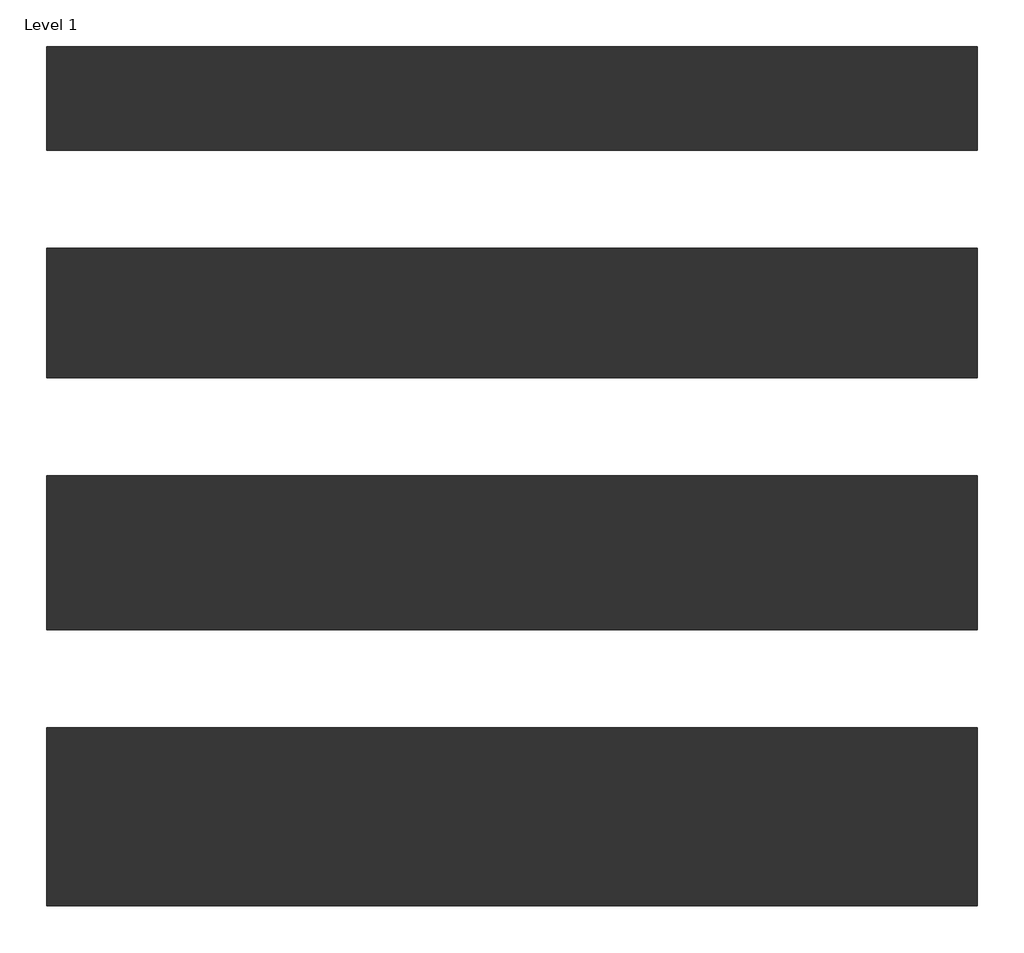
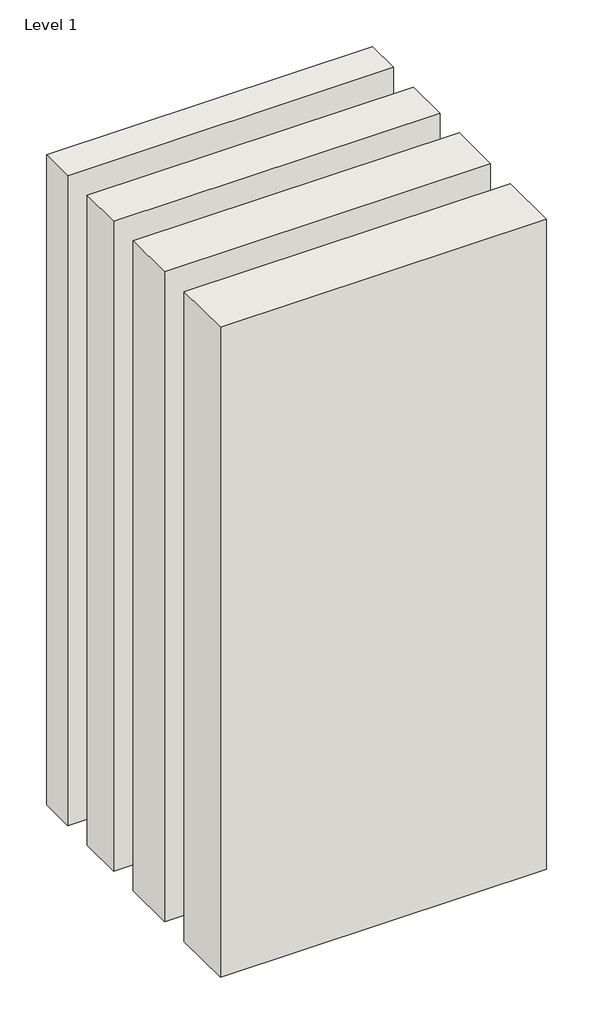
# One storey: 4 walls.
"""IFC4 building model written with IfcOpenShell, lengths in millimetres."""

from ifc_helpers import new_model, si_unit, origin, origin_with_axes, place, context, project, spatial, polyline, outline, extrude, element, save

model = new_model("IFC4")

# Units and contexts
model_context = context("Model", 3, world=origin())
ifc_project = project(units=[si_unit("LENGTHUNIT", "METRE", prefix="MILLI")], contexts=[model_context])

# Site, building, storey
site = spatial("IfcSite", under=ifc_project)
building = spatial("IfcBuilding", under=site)
storey = spatial("IfcBuildingStorey", under=building, Name="Level 1", Elevation=0.0)

# Walls
placement = place(None, origin())
element("IfcWall", 1, ObjectType="Interior-Steel Frame-Double Stud-CSR1360-212mm", at=placement, inside=storey, context=model_context, shape_type="SweptSolid", body=[
    extrude(outline(polyline([(-581.3441035, -599.7263136), (1318.6558965, -599.7263136), (1318.6558965, -811.7263136), (-581.3441035, -811.7263136), (-581.3441035, -599.7263136)])), origin_with_axes(), (0.0, 0.0, 1.0), 4000.0),
])
element("IfcWall", 2, ObjectType="Interior-Steel Frame-Double Stud-CSR1360-264mm", at=placement, inside=storey, context=model_context, shape_type="SweptSolid", body=[
    extrude(outline(polyline([(-581.3441035, -1011.7263136), (1318.6558965, -1011.7263136), (1318.6558965, -1275.7263136), (-581.3441035, -1275.7263136), (-581.3441035, -1011.7263136)])), origin_with_axes(), (0.0, 0.0, 1.0), 4000.0),
])
element("IfcWall", 3, ObjectType="Interior-Steel Frame-Double Stud-CSR1360-314mm", at=placement, inside=storey, context=model_context, shape_type="SweptSolid", body=[
    extrude(outline(polyline([(-581.3441035, -1475.7263136), (1318.6558965, -1475.7263136), (1318.6558965, -1789.7263136), (-581.3441035, -1789.7263136), (-581.3441035, -1475.7263136)])), origin_with_axes(), (0.0, 0.0, 1.0), 4000.0),
])
element("IfcWall", 4, ObjectType="Interior-Steel Frame-Double Stud-CSR1360-364mm", at=placement, inside=storey, context=model_context, shape_type="SweptSolid", body=[
    extrude(outline(polyline([(-581.3441035, -1989.7263136), (1318.6558965, -1989.7263136), (1318.6558965, -2353.7263136), (-581.3441035, -2353.7263136), (-581.3441035, -1989.7263136)])), origin_with_axes(), (0.0, 0.0, 1.0), 4000.0),
])

save(model, "model.ifc")
